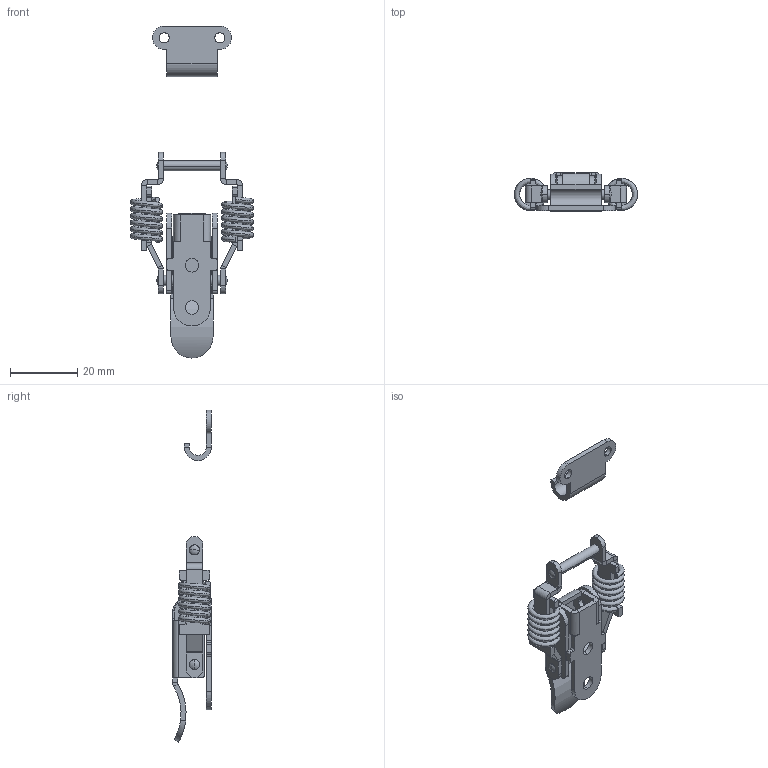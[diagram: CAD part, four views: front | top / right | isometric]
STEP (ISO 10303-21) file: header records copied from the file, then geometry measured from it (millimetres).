
FILE_DESCRIPTION (( 'STEP AP203' ), '1' );
FILE_NAME ('SK3-012.STEP', '2018-04-09T05:10:46', ( 'admin' ), ( 'Microsoft' ), 'SwSTEP 2.0', 'SolidWorks 2015', '' );
FILE_SCHEMA (( 'CONFIG_CONTROL_DESIGN' ));
Length unit declared in the file: millimetre
Products named in the file (8): SK3-012  魂雄; SK3-012 粟銅; SK3-012 蜇璃1; SK3-012 ͷ; SK3-012 种隊; SK3-012 蜇璃2; SK3-012; SK3-012 嘐隅
Assembly tree (11 placements, depth 2):
  SK3-012
    SK3-012 嘐隅
    SK3-012  魂雄
    SK3-012 粟銅  x2
    SK3-012 蜇璃1  x2
    SK3-012 ͷ
    SK3-012 种隊  x2
    SK3-012 蜇璃2  x2
Bounding box: 36.5 x 11.5 x 98.5 mm (x, y, z)
Volume: 4382.3 mm3; surface area: 7832.9 mm2
Topology: 11 solids, 11 shells, 281 faces, 655 edges, 396 vertices
Faces by surface type: plane 164, cylinder 104, sphere 8, bspline 5
Entity records: 9138 total; most frequent: CARTESIAN_POINT 3207, DIRECTION 1104, ORIENTED_EDGE 992, EDGE_CURVE 496, AXIS2_PLACEMENT_3D 393, LINE 318, VECTOR 318, VERTEX_POINT 302
